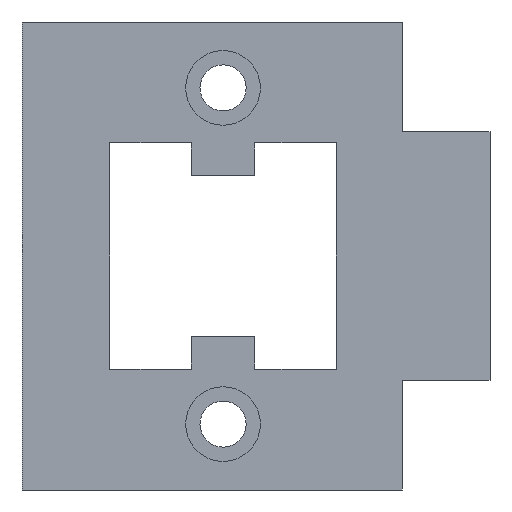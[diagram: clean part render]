
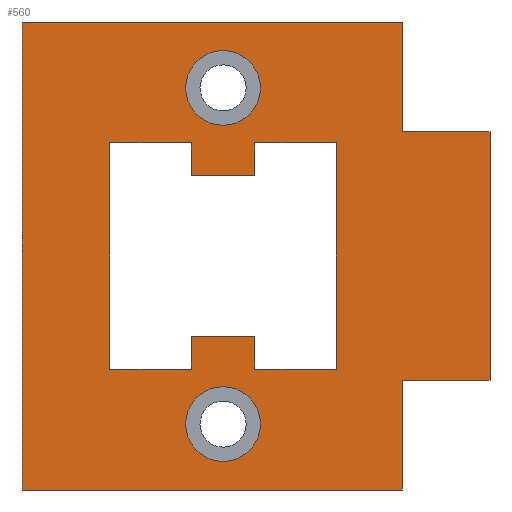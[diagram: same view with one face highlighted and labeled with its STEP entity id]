
A CAD part, front view. The second image highlights one B-rep face of the part: STEP entity #560.
In plain terms, the highlighted planar face has unit normal (0, -1, 0).
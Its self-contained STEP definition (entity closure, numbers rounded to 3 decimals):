
#21=CIRCLE('',#605,1.7);
#22=CIRCLE('',#606,1.7);
#33=FACE_BOUND('',#77,.T.);
#34=FACE_BOUND('',#78,.T.);
#35=FACE_BOUND('',#79,.T.);
#46=FACE_OUTER_BOUND('',#76,.T.);
#76=EDGE_LOOP('',(#383,#384,#385,#386,#387,#388,#389,#390));
#77=EDGE_LOOP('',(#391,#392,#393,#394,#395,#396,#397,#398,#399,#400,#401,
#402));
#78=EDGE_LOOP('',(#403));
#79=EDGE_LOOP('',(#404));
#120=LINE('',#806,#186);
#121=LINE('',#809,#187);
#122=LINE('',#811,#188);
#123=LINE('',#813,#189);
#124=LINE('',#815,#190);
#125=LINE('',#817,#191);
#126=LINE('',#819,#192);
#127=LINE('',#820,#193);
#128=LINE('',#823,#194);
#129=LINE('',#825,#195);
#130=LINE('',#827,#196);
#131=LINE('',#829,#197);
#132=LINE('',#831,#198);
#133=LINE('',#833,#199);
#134=LINE('',#835,#200);
#135=LINE('',#837,#201);
#136=LINE('',#839,#202);
#137=LINE('',#841,#203);
#138=LINE('',#843,#204);
#139=LINE('',#844,#205);
#186=VECTOR('',#652,10.);
#187=VECTOR('',#655,10.);
#188=VECTOR('',#656,10.);
#189=VECTOR('',#657,10.);
#190=VECTOR('',#658,10.);
#191=VECTOR('',#659,10.);
#192=VECTOR('',#660,10.);
#193=VECTOR('',#661,10.);
#194=VECTOR('',#662,10.);
#195=VECTOR('',#663,10.);
#196=VECTOR('',#664,10.);
#197=VECTOR('',#665,10.);
#198=VECTOR('',#666,10.);
#199=VECTOR('',#667,10.);
#200=VECTOR('',#668,10.);
#201=VECTOR('',#669,10.);
#202=VECTOR('',#670,10.);
#203=VECTOR('',#671,10.);
#204=VECTOR('',#672,10.);
#205=VECTOR('',#673,10.);
#250=VERTEX_POINT('',#800);
#252=VERTEX_POINT('',#804);
#253=VERTEX_POINT('',#808);
#254=VERTEX_POINT('',#810);
#255=VERTEX_POINT('',#812);
#256=VERTEX_POINT('',#814);
#257=VERTEX_POINT('',#816);
#258=VERTEX_POINT('',#818);
#259=VERTEX_POINT('',#821);
#260=VERTEX_POINT('',#822);
#261=VERTEX_POINT('',#824);
#262=VERTEX_POINT('',#826);
#263=VERTEX_POINT('',#828);
#264=VERTEX_POINT('',#830);
#265=VERTEX_POINT('',#832);
#266=VERTEX_POINT('',#834);
#267=VERTEX_POINT('',#836);
#268=VERTEX_POINT('',#838);
#269=VERTEX_POINT('',#840);
#270=VERTEX_POINT('',#842);
#271=VERTEX_POINT('',#845);
#272=VERTEX_POINT('',#847);
#304=EDGE_CURVE('',#250,#252,#120,.T.);
#305=EDGE_CURVE('',#252,#253,#121,.T.);
#306=EDGE_CURVE('',#254,#253,#122,.T.);
#307=EDGE_CURVE('',#254,#255,#123,.T.);
#308=EDGE_CURVE('',#255,#256,#124,.T.);
#309=EDGE_CURVE('',#256,#257,#125,.T.);
#310=EDGE_CURVE('',#257,#258,#126,.T.);
#311=EDGE_CURVE('',#258,#250,#127,.T.);
#312=EDGE_CURVE('',#259,#260,#128,.T.);
#313=EDGE_CURVE('',#261,#259,#129,.T.);
#314=EDGE_CURVE('',#262,#261,#130,.T.);
#315=EDGE_CURVE('',#263,#262,#131,.T.);
#316=EDGE_CURVE('',#264,#263,#132,.T.);
#317=EDGE_CURVE('',#265,#264,#133,.T.);
#318=EDGE_CURVE('',#266,#265,#134,.T.);
#319=EDGE_CURVE('',#267,#266,#135,.T.);
#320=EDGE_CURVE('',#268,#267,#136,.T.);
#321=EDGE_CURVE('',#269,#268,#137,.T.);
#322=EDGE_CURVE('',#270,#269,#138,.T.);
#323=EDGE_CURVE('',#260,#270,#139,.T.);
#324=EDGE_CURVE('',#271,#271,#21,.T.);
#325=EDGE_CURVE('',#272,#272,#22,.T.);
#383=ORIENTED_EDGE('',*,*,#304,.T.);
#384=ORIENTED_EDGE('',*,*,#305,.T.);
#385=ORIENTED_EDGE('',*,*,#306,.F.);
#386=ORIENTED_EDGE('',*,*,#307,.T.);
#387=ORIENTED_EDGE('',*,*,#308,.T.);
#388=ORIENTED_EDGE('',*,*,#309,.T.);
#389=ORIENTED_EDGE('',*,*,#310,.T.);
#390=ORIENTED_EDGE('',*,*,#311,.T.);
#391=ORIENTED_EDGE('',*,*,#312,.F.);
#392=ORIENTED_EDGE('',*,*,#313,.F.);
#393=ORIENTED_EDGE('',*,*,#314,.F.);
#394=ORIENTED_EDGE('',*,*,#315,.F.);
#395=ORIENTED_EDGE('',*,*,#316,.F.);
#396=ORIENTED_EDGE('',*,*,#317,.F.);
#397=ORIENTED_EDGE('',*,*,#318,.F.);
#398=ORIENTED_EDGE('',*,*,#319,.F.);
#399=ORIENTED_EDGE('',*,*,#320,.F.);
#400=ORIENTED_EDGE('',*,*,#321,.F.);
#401=ORIENTED_EDGE('',*,*,#322,.F.);
#402=ORIENTED_EDGE('',*,*,#323,.F.);
#403=ORIENTED_EDGE('',*,*,#324,.F.);
#404=ORIENTED_EDGE('',*,*,#325,.F.);
#536=PLANE('',#604);
#560=ADVANCED_FACE('',(#46,#33,#34,#35),#536,.F.);
#604=AXIS2_PLACEMENT_3D('',#807,#653,#654);
#605=AXIS2_PLACEMENT_3D('',#846,#674,#675);
#606=AXIS2_PLACEMENT_3D('',#848,#676,#677);
#652=DIRECTION('',(0.,0.,1.));
#653=DIRECTION('center_axis',(0.,1.,0.));
#654=DIRECTION('ref_axis',(1.,0.,0.));
#655=DIRECTION('',(1.,0.,0.));
#656=DIRECTION('',(0.,0.,-1.));
#657=DIRECTION('',(-1.,0.,0.));
#658=DIRECTION('',(0.,0.,1.));
#659=DIRECTION('',(-1.,0.,0.));
#660=DIRECTION('',(0.,0.,-1.));
#661=DIRECTION('',(1.,0.,0.));
#662=DIRECTION('',(0.,0.,1.));
#663=DIRECTION('',(-1.,0.,0.));
#664=DIRECTION('',(0.,0.,-1.));
#665=DIRECTION('',(-1.,0.,0.));
#666=DIRECTION('',(0.,0.,1.));
#667=DIRECTION('',(1.,0.,0.));
#668=DIRECTION('',(0.,0.,-1.));
#669=DIRECTION('',(1.,0.,0.));
#670=DIRECTION('',(0.,0.,1.));
#671=DIRECTION('',(1.,0.,0.));
#672=DIRECTION('',(0.,0.,-1.));
#673=DIRECTION('',(-1.,0.,0.));
#674=DIRECTION('center_axis',(0.,-1.,0.));
#675=DIRECTION('ref_axis',(1.,0.,0.));
#676=DIRECTION('center_axis',(0.,-1.,0.));
#677=DIRECTION('ref_axis',(1.,0.,0.));
#800=CARTESIAN_POINT('',(8.15,0.,-10.65));
#804=CARTESIAN_POINT('',(8.15,0.,-5.65));
#806=CARTESIAN_POINT('',(8.15,0.,-4.075));
#807=CARTESIAN_POINT('Origin',(0.,0.,0.));
#808=CARTESIAN_POINT('',(12.15,0.,-5.65));
#809=CARTESIAN_POINT('',(4.575,0.,-5.65));
#810=CARTESIAN_POINT('',(12.15,0.,5.65));
#811=CARTESIAN_POINT('',(12.15,0.,-3.825));
#812=CARTESIAN_POINT('',(8.15,0.,5.65));
#813=CARTESIAN_POINT('',(6.075,0.,5.65));
#814=CARTESIAN_POINT('',(8.15,0.,10.65));
#815=CARTESIAN_POINT('',(8.15,0.,4.075));
#816=CARTESIAN_POINT('',(-9.15,0.,10.65));
#817=CARTESIAN_POINT('',(8.15,0.,10.65));
#818=CARTESIAN_POINT('',(-9.15,0.,-10.65));
#819=CARTESIAN_POINT('',(-9.15,0.,-5.325));
#820=CARTESIAN_POINT('',(8.15,0.,-10.65));
#821=CARTESIAN_POINT('',(-1.45,0.,3.65));
#822=CARTESIAN_POINT('',(-1.45,0.,5.15));
#823=CARTESIAN_POINT('',(-1.45,0.,5.15));
#824=CARTESIAN_POINT('',(1.45,0.,3.65));
#825=CARTESIAN_POINT('',(-1.45,0.,3.65));
#826=CARTESIAN_POINT('',(1.45,0.,5.15));
#827=CARTESIAN_POINT('',(1.45,0.,5.15));
#828=CARTESIAN_POINT('',(5.15,0.,5.15));
#829=CARTESIAN_POINT('',(5.15,0.,5.15));
#830=CARTESIAN_POINT('',(5.15,0.,-5.15));
#831=CARTESIAN_POINT('',(5.15,0.,-5.15));
#832=CARTESIAN_POINT('',(1.45,0.,-5.15));
#833=CARTESIAN_POINT('',(1.45,0.,-5.15));
#834=CARTESIAN_POINT('',(1.45,0.,-3.65));
#835=CARTESIAN_POINT('',(1.45,0.,-5.15));
#836=CARTESIAN_POINT('',(-1.45,0.,-3.65));
#837=CARTESIAN_POINT('',(-1.45,0.,-3.65));
#838=CARTESIAN_POINT('',(-1.45,0.,-5.15));
#839=CARTESIAN_POINT('',(-1.45,0.,-5.15));
#840=CARTESIAN_POINT('',(-5.15,0.,-5.15));
#841=CARTESIAN_POINT('',(-5.15,0.,-5.15));
#842=CARTESIAN_POINT('',(-5.15,0.,5.15));
#843=CARTESIAN_POINT('',(-5.15,0.,5.15));
#844=CARTESIAN_POINT('',(-1.45,0.,5.15));
#845=CARTESIAN_POINT('',(-1.7,0.,-7.65));
#846=CARTESIAN_POINT('Origin',(0.,0.,-7.65));
#847=CARTESIAN_POINT('',(-1.7,0.,7.65));
#848=CARTESIAN_POINT('Origin',(0.,0.,7.65));
